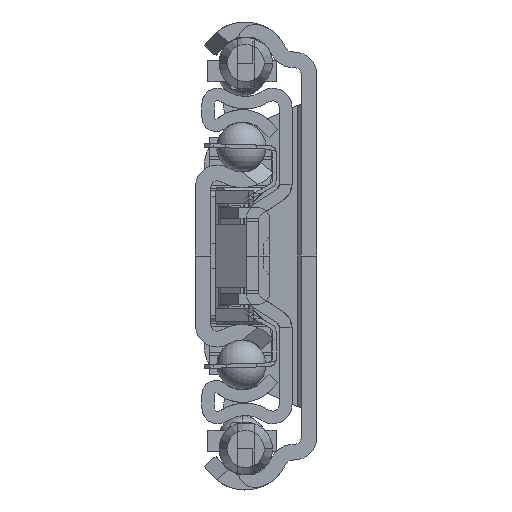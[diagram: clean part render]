
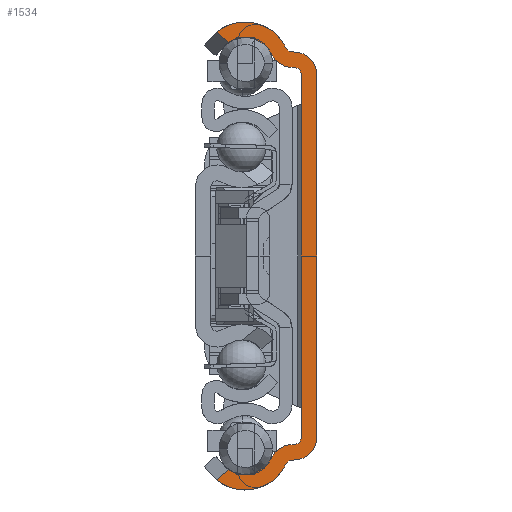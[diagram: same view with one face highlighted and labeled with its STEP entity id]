
A CAD part, left-side view. The second image highlights one B-rep face of the part: STEP entity #1534.
In plain terms, the highlighted planar face has unit normal (-1, 0, 0).
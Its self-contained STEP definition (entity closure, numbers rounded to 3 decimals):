
#1=DIRECTION('',(0.,-0.769,-0.639));
#2=VECTOR('',#1,2.575);
#3=CARTESIAN_POINT('',(0.,16.079,36.021));
#4=LINE('',#3,#2);
#5=CARTESIAN_POINT('',(0.,11.5,30.4));
#6=DIRECTION('',(1.,0.,0.));
#7=DIRECTION('',(0.,0.632,0.775));
#8=AXIS2_PLACEMENT_3D('',#5,#6,#7);
#10=DIRECTION('',(0.,-0.996,-0.087));
#11=VECTOR('',#10,0.904);
#12=CARTESIAN_POINT('',(0.,4.095,32.858));
#13=LINE('',#12,#11);
#14=CARTESIAN_POINT('',(0.,3.5,29.293));
#15=DIRECTION('',(-1.,0.,0.));
#16=DIRECTION('',(0.,-1.,0.));
#17=AXIS2_PLACEMENT_3D('',#14,#15,#16);
#19=DIRECTION('',(0.,0.,-1.));
#20=VECTOR('',#19,58.586);
#21=CARTESIAN_POINT('',(0.,0.,29.293));
#22=LINE('',#21,#20);
#23=CARTESIAN_POINT('',(0.,3.5,-29.293));
#24=DIRECTION('',(-1.,0.,0.));
#25=DIRECTION('',(0.,-0.087,-0.996));
#26=AXIS2_PLACEMENT_3D('',#23,#24,#25);
#28=DIRECTION('',(0.,0.996,-0.087));
#29=VECTOR('',#28,0.904);
#30=CARTESIAN_POINT('',(0.,3.195,-32.78));
#31=LINE('',#30,#29);
#32=CARTESIAN_POINT('',(0.,11.5,-30.4));
#33=DIRECTION('',(1.,0.,0.));
#34=DIRECTION('',(0.,-0.908,-0.419));
#35=AXIS2_PLACEMENT_3D('',#32,#33,#34);
#37=DIRECTION('',(0.,0.769,-0.639));
#38=VECTOR('',#37,2.575);
#39=CARTESIAN_POINT('',(0.,14.098,-34.377));
#40=LINE('',#39,#38);
#41=CARTESIAN_POINT('',(0.,11.5,-30.4));
#42=DIRECTION('',(-1.,0.,0.));
#43=DIRECTION('',(0.,0.547,-0.837));
#44=AXIS2_PLACEMENT_3D('',#41,#42,#43);
#46=CARTESIAN_POINT('',(0.,4.008,-33.854));
#47=DIRECTION('',(-1.,0.,0.));
#48=DIRECTION('',(0.,0.087,0.996));
#49=AXIS2_PLACEMENT_3D('',#46,#47,#48);
#51=DIRECTION('',(0.,-0.996,0.087));
#52=VECTOR('',#51,0.904);
#53=CARTESIAN_POINT('',(0.,4.313,-30.368));
#54=LINE('',#53,#52);
#55=DIRECTION('',(0.,0.,1.));
#56=VECTOR('',#55,58.586);
#57=CARTESIAN_POINT('',(0.,2.5,-29.293));
#58=LINE('',#57,#56);
#59=DIRECTION('',(0.,0.996,0.087));
#60=VECTOR('',#59,0.904);
#61=CARTESIAN_POINT('',(0.,3.413,30.289));
#62=LINE('',#61,#60);
#63=CARTESIAN_POINT('',(0.,4.008,33.854));
#64=DIRECTION('',(-1.,0.,0.));
#65=DIRECTION('',(0.,0.908,-0.419));
#66=AXIS2_PLACEMENT_3D('',#63,#64,#65);
#68=CARTESIAN_POINT('',(0.,11.5,30.4));
#69=DIRECTION('',(-1.,0.,0.));
#70=DIRECTION('',(0.,-0.908,0.419));
#71=AXIS2_PLACEMENT_3D('',#68,#69,#70);
#73=CARTESIAN_POINT('',(0.,14.098,34.377));
#121=CARTESIAN_POINT('',(0.,3.5,29.293));
#122=DIRECTION('',(1.,0.,0.));
#123=DIRECTION('',(0.,-0.087,0.996));
#124=AXIS2_PLACEMENT_3D('',#121,#122,#123);
#704=CARTESIAN_POINT('',(0.,16.079,
36.021));
#770=CARTESIAN_POINT('',(0.,16.079,
-36.021));
#824=CARTESIAN_POINT('',(0.,14.098,
-34.377));
#1113=CARTESIAN_POINT('',(0.,3.5,-29.293));
#1114=DIRECTION('',(1.,0.,0.));
#1115=DIRECTION('',(0.,-1.,0.));
#1116=AXIS2_PLACEMENT_3D('',#1113,#1114,#1115);
#1123=CARTESIAN_POINT('',(0.,4.008,-33.854));
#1124=DIRECTION('',(1.,0.,0.));
#1125=DIRECTION('',(0.,0.908,0.419));
#1126=AXIS2_PLACEMENT_3D('',#1123,#1124,#1125);
#1141=CARTESIAN_POINT('',(0.,4.008,33.854));
#1142=DIRECTION('',(1.,0.,0.));
#1143=DIRECTION('',(0.,0.087,-0.996));
#1144=AXIS2_PLACEMENT_3D('',#1141,#1142,#1143);
#1159=CARTESIAN_POINT('',(0.,2.5,-29.293));
#1160=CARTESIAN_POINT('',(0.,2.5,29.293));
#1161=VERTEX_POINT('',#1159);
#1162=VERTEX_POINT('',#1160);
#1163=CARTESIAN_POINT('',(0.,3.413,-30.289));
#1164=VERTEX_POINT('',#1163);
#1165=CARTESIAN_POINT('',(0.,3.413,30.289));
#1166=VERTEX_POINT('',#1165);
#1167=CARTESIAN_POINT('',(0.,4.095,32.858));
#1168=CARTESIAN_POINT('',(0.,4.916,33.436));
#1169=VERTEX_POINT('',#1167);
#1170=VERTEX_POINT('',#1168);
#1171=CARTESIAN_POINT('',(0.,4.916,-33.436));
#1172=CARTESIAN_POINT('',(0.,4.095,-32.858));
#1173=VERTEX_POINT('',#1171);
#1174=VERTEX_POINT('',#1172);
#1175=CARTESIAN_POINT('',(0.,4.313,-30.368));
#1176=CARTESIAN_POINT('',(0.,7.186,-32.389));
#1177=VERTEX_POINT('',#1175);
#1178=VERTEX_POINT('',#1176);
#1179=CARTESIAN_POINT('',(0.,7.186,32.389));
#1180=CARTESIAN_POINT('',(0.,4.313,30.368));
#1181=VERTEX_POINT('',#1179);
#1182=VERTEX_POINT('',#1180);
#1183=CARTESIAN_POINT('',(0.,0.,29.293));
#1184=CARTESIAN_POINT('',(0.,3.195,32.78));
#1185=VERTEX_POINT('',#1183);
#1186=VERTEX_POINT('',#1184);
#1187=CARTESIAN_POINT('',(0.,3.195,-32.78));
#1188=CARTESIAN_POINT('',(0.,0.,-29.293));
#1189=VERTEX_POINT('',#1187);
#1190=VERTEX_POINT('',#1188);
#1437=VERTEX_POINT('',#73);
#1445=VERTEX_POINT('',#704);
#1446=VERTEX_POINT('',#770);
#1454=VERTEX_POINT('',#824);
#1487=CARTESIAN_POINT('',(0.,0.,0.));
#1488=DIRECTION('',(1.,0.,0.));
#1489=DIRECTION('',(0.,-1.,0.));
#1490=AXIS2_PLACEMENT_3D('',#1487,#1488,#1489);
#1491=PLANE('',#1490);
#1493=ORIENTED_EDGE('',*,*,#1492,.F.);
#1495=ORIENTED_EDGE('',*,*,#1494,.T.);
#1497=ORIENTED_EDGE('',*,*,#1496,.F.);
#1499=ORIENTED_EDGE('',*,*,#1498,.T.);
#1501=ORIENTED_EDGE('',*,*,#1500,.F.);
#1503=ORIENTED_EDGE('',*,*,#1502,.T.);
#1505=ORIENTED_EDGE('',*,*,#1504,.F.);
#1507=ORIENTED_EDGE('',*,*,#1506,.T.);
#1509=ORIENTED_EDGE('',*,*,#1508,.F.);
#1511=ORIENTED_EDGE('',*,*,#1510,.T.);
#1513=ORIENTED_EDGE('',*,*,#1512,.F.);
#1515=ORIENTED_EDGE('',*,*,#1514,.T.);
#1517=ORIENTED_EDGE('',*,*,#1516,.F.);
#1519=ORIENTED_EDGE('',*,*,#1518,.T.);
#1521=ORIENTED_EDGE('',*,*,#1520,.F.);
#1523=ORIENTED_EDGE('',*,*,#1522,.T.);
#1525=ORIENTED_EDGE('',*,*,#1524,.F.);
#1527=ORIENTED_EDGE('',*,*,#1526,.T.);
#1529=ORIENTED_EDGE('',*,*,#1528,.F.);
#1531=ORIENTED_EDGE('',*,*,#1530,.T.);
#1532=EDGE_LOOP('',(#1493,#1495,#1497,#1499,#1501,#1503,#1505,#1507,#1509,#1511,
#1513,#1515,#1517,#1519,#1521,#1523,#1525,#1527,#1529,#1531));
#1533=FACE_OUTER_BOUND('',#1532,.F.);
#9=CIRCLE('',#8,7.25);
#18=CIRCLE('',#17,3.5);
#27=CIRCLE('',#26,3.5);
#36=CIRCLE('',#35,7.25);
#45=CIRCLE('',#44,4.75);
#50=CIRCLE('',#49,3.5);
#67=CIRCLE('',#66,3.5);
#72=CIRCLE('',#71,4.75);
#125=CIRCLE('',#124,1.);
#1117=CIRCLE('',#1116,1.);
#1127=CIRCLE('',#1126,1.);
#1145=CIRCLE('',#1144,1.);
#1492=EDGE_CURVE('',#1445,#1437,#4,.T.);
#1494=EDGE_CURVE('',#1445,#1170,#9,.T.);
#1496=EDGE_CURVE('',#1169,#1170,#1145,.T.);
#1498=EDGE_CURVE('',#1169,#1186,#13,.T.);
#1500=EDGE_CURVE('',#1185,#1186,#18,.T.);
#1502=EDGE_CURVE('',#1185,#1190,#22,.T.);
#1504=EDGE_CURVE('',#1189,#1190,#27,.T.);
#1506=EDGE_CURVE('',#1189,#1174,#31,.T.);
#1508=EDGE_CURVE('',#1173,#1174,#1127,.T.);
#1510=EDGE_CURVE('',#1173,#1446,#36,.T.);
#1512=EDGE_CURVE('',#1454,#1446,#40,.T.);
#1514=EDGE_CURVE('',#1454,#1178,#45,.T.);
#1516=EDGE_CURVE('',#1177,#1178,#50,.T.);
#1518=EDGE_CURVE('',#1177,#1164,#54,.T.);
#1520=EDGE_CURVE('',#1161,#1164,#1117,.T.);
#1522=EDGE_CURVE('',#1161,#1162,#58,.T.);
#1524=EDGE_CURVE('',#1166,#1162,#125,.T.);
#1526=EDGE_CURVE('',#1166,#1182,#62,.T.);
#1528=EDGE_CURVE('',#1181,#1182,#67,.T.);
#1530=EDGE_CURVE('',#1181,#1437,#72,.T.);
#1534=ADVANCED_FACE('',(#1533),#1491,.F.);
